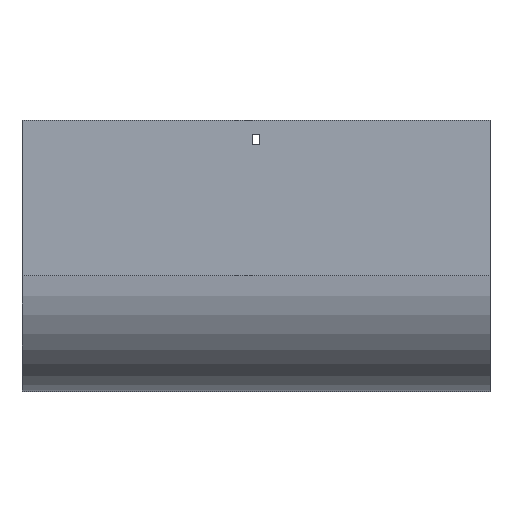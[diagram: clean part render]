
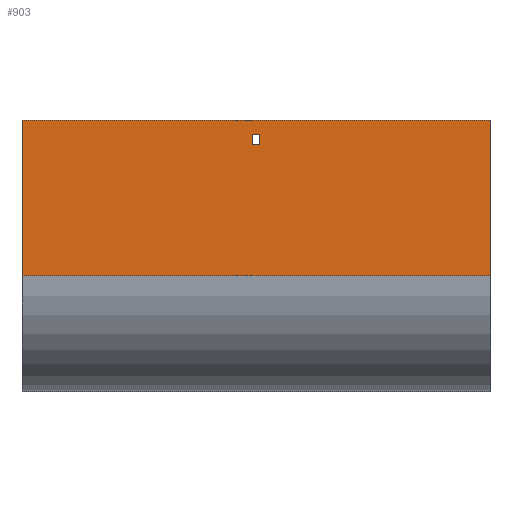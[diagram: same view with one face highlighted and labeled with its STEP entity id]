
A CAD part, front view. The second image highlights one B-rep face of the part: STEP entity #903.
In plain terms, the highlighted planar face has unit normal (0, -1, 0).
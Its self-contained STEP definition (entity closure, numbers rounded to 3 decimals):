
#25 = DIRECTION ( 'NONE',  ( -1., 0., 0. ) ) ;
#39 = ORIENTED_EDGE ( 'NONE', *, *, #1887, .T. ) ;
#81 = EDGE_CURVE ( 'NONE', #621, #1718, #241, .T. ) ;
#88 = CARTESIAN_POINT ( 'NONE',  ( 202., -104., -134. ) ) ;
#100 = VERTEX_POINT ( 'NONE', #1179 ) ;
#113 = LINE ( 'NONE', #123, #1411 ) ;
#123 = CARTESIAN_POINT ( 'NONE',  ( 202., -104., -134. ) ) ;
#142 = AXIS2_PLACEMENT_3D ( 'NONE', #88, #885, #1941 ) ;
#154 = CARTESIAN_POINT ( 'NONE',  ( -3.25, -104., -21. ) ) ;
#188 = EDGE_CURVE ( 'NONE', #621, #1772, #1607, .T. ) ;
#235 = ORIENTED_EDGE ( 'NONE', *, *, #688, .T. ) ;
#237 = CARTESIAN_POINT ( 'NONE',  ( 202., -104., -134. ) ) ;
#241 = LINE ( 'NONE', #1929, #950 ) ;
#261 = CARTESIAN_POINT ( 'NONE',  ( 202., -104., 0. ) ) ;
#268 = LINE ( 'NONE', #154, #1222 ) ;
#287 = VECTOR ( 'NONE', #1720, 1000. ) ;
#358 = ORIENTED_EDGE ( 'NONE', *, *, #550, .F. ) ;
#424 = VERTEX_POINT ( 'NONE', #1573 ) ;
#512 = EDGE_CURVE ( 'NONE', #1900, #604, #268, .T. ) ;
#550 = EDGE_CURVE ( 'NONE', #1718, #1369, #113, .T. ) ;
#554 = LINE ( 'NONE', #1761, #1809 ) ;
#584 = ORIENTED_EDGE ( 'NONE', *, *, #1701, .T. ) ;
#604 = VERTEX_POINT ( 'NONE', #1598 ) ;
#619 = LINE ( 'NONE', #1389, #1572 ) ;
#621 = VERTEX_POINT ( 'NONE', #782 ) ;
#661 = ORIENTED_EDGE ( 'NONE', *, *, #81, .F. ) ;
#665 = ORIENTED_EDGE ( 'NONE', *, *, #512, .T. ) ;
#688 = EDGE_CURVE ( 'NONE', #1772, #1369, #619, .T. ) ;
#782 = CARTESIAN_POINT ( 'NONE',  ( 202., -104., 0. ) ) ;
#839 = FACE_OUTER_BOUND ( 'NONE', #1180, .T. ) ;
#867 = DIRECTION ( 'NONE',  ( -1., 0., 0. ) ) ;
#885 = DIRECTION ( 'NONE',  ( 0., 1., 0. ) ) ;
#903 = ADVANCED_FACE ( 'NONE', ( #1580, #839 ), #1430, .F. ) ;
#910 = CARTESIAN_POINT ( 'NONE',  ( -3.25, -104., -21. ) ) ;
#950 = VECTOR ( 'NONE', #1918, 1000. ) ;
#1082 = DIRECTION ( 'NONE',  ( 0., 0., -1. ) ) ;
#1090 = CARTESIAN_POINT ( 'NONE',  ( -202., -104., -134. ) ) ;
#1122 = CARTESIAN_POINT ( 'NONE',  ( -3.25, -104., -12. ) ) ;
#1158 = ORIENTED_EDGE ( 'NONE', *, *, #188, .T. ) ;
#1179 = CARTESIAN_POINT ( 'NONE',  ( 3.25, -104., -12. ) ) ;
#1180 = EDGE_LOOP ( 'NONE', ( #235, #358, #661, #1158 ) ) ;
#1182 = CARTESIAN_POINT ( 'NONE',  ( -3.25, -104., -21. ) ) ;
#1222 = VECTOR ( 'NONE', #1888, 1000. ) ;
#1241 = LINE ( 'NONE', #910, #1592 ) ;
#1243 = CARTESIAN_POINT ( 'NONE',  ( -202., -104., 0. ) ) ;
#1369 = VERTEX_POINT ( 'NONE', #1090 ) ;
#1381 = EDGE_CURVE ( 'NONE', #424, #1900, #1241, .T. ) ;
#1389 = CARTESIAN_POINT ( 'NONE',  ( -202., -104., -134. ) ) ;
#1411 = VECTOR ( 'NONE', #1734, 1000. ) ;
#1421 = LINE ( 'NONE', #1122, #287 ) ;
#1430 = PLANE ( 'NONE',  #142 ) ;
#1572 = VECTOR ( 'NONE', #1082, 1000. ) ;
#1573 = CARTESIAN_POINT ( 'NONE',  ( 3.25, -104., -21. ) ) ;
#1580 = FACE_BOUND ( 'NONE', #1866, .T. ) ;
#1592 = VECTOR ( 'NONE', #25, 1000. ) ;
#1598 = CARTESIAN_POINT ( 'NONE',  ( -3.25, -104., -12. ) ) ;
#1607 = LINE ( 'NONE', #261, #1669 ) ;
#1610 = DIRECTION ( 'NONE',  ( 0., 0., -1. ) ) ;
#1669 = VECTOR ( 'NONE', #867, 1000. ) ;
#1698 = ORIENTED_EDGE ( 'NONE', *, *, #1381, .T. ) ;
#1701 = EDGE_CURVE ( 'NONE', #604, #100, #1421, .T. ) ;
#1718 = VERTEX_POINT ( 'NONE', #237 ) ;
#1720 = DIRECTION ( 'NONE',  ( 1., 0., 0. ) ) ;
#1734 = DIRECTION ( 'NONE',  ( -1., 0., 0. ) ) ;
#1761 = CARTESIAN_POINT ( 'NONE',  ( 3.25, -104., -21. ) ) ;
#1772 = VERTEX_POINT ( 'NONE', #1243 ) ;
#1809 = VECTOR ( 'NONE', #1610, 1000. ) ;
#1866 = EDGE_LOOP ( 'NONE', ( #1698, #665, #584, #39 ) ) ;
#1887 = EDGE_CURVE ( 'NONE', #100, #424, #554, .T. ) ;
#1888 = DIRECTION ( 'NONE',  ( 0., 0., 1. ) ) ;
#1900 = VERTEX_POINT ( 'NONE', #1182 ) ;
#1918 = DIRECTION ( 'NONE',  ( 0., 0., -1. ) ) ;
#1929 = CARTESIAN_POINT ( 'NONE',  ( 202., -104., -134. ) ) ;
#1941 = DIRECTION ( 'NONE',  ( 0., 0., 1. ) ) ;
